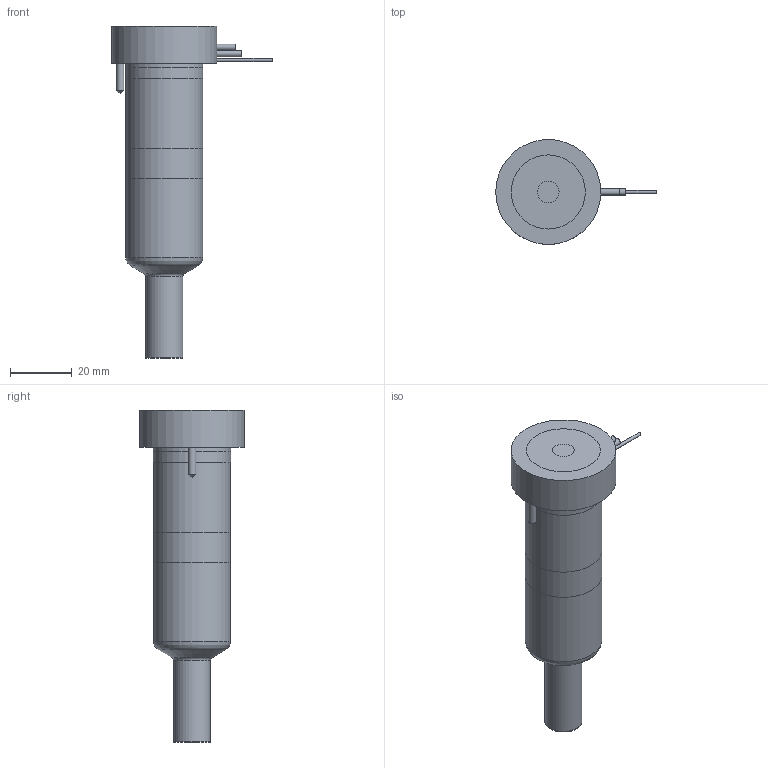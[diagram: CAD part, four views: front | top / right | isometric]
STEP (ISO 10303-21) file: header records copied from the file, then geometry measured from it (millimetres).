
FILE_DESCRIPTION(/* description */ (''),/* implementation_level */ '2;1');
FILE_NAME(/* name */ 'MXTSX-MXISX-MXOSX16075_200C_b',/* time_stamp */ '2008-04-28T15:42:24+12:00',/* author */ (''),/* organization */ (''),/* preprocessor_version */ 'ST-DEVELOPER v9',/* originating_system */ 'UGS - NX 4.0',/* authorisation */ '');
FILE_SCHEMA (('CONFIG_CONTROL_DESIGN'));
Length unit declared in the file: millimetre
Products named in the file (1): MXTSX-MXISX-MXOSX16075_200C_b
Bounding box: 51.95 x 34 x 107.45 mm (x, y, z)
Volume: 84452.6 mm3; surface area: 19799.5 mm2
Topology: 7 solids, 7 shells, 78 faces, 147 edges, 95 vertices
Faces by surface type: plane 35, cylinder 27, cone 8, torus 7, bspline 1
Full cylindrical faces by diameter (mm): 1 x4, 2 x2, 2.5 x2, 7 x1, 11.61 x1, 12.01 x2, 14.8 x1, 20.8 x1, 24.9 x2, 25 x2, 34 x1
Entity records: 1882 total; most frequent: CARTESIAN_POINT 372, DIRECTION 322, ORIENTED_EDGE 212, AXIS2_PLACEMENT_3D 148, EDGE_LOOP 122, EDGE_CURVE 106, VERTEX_POINT 87, ADVANCED_FACE 78
